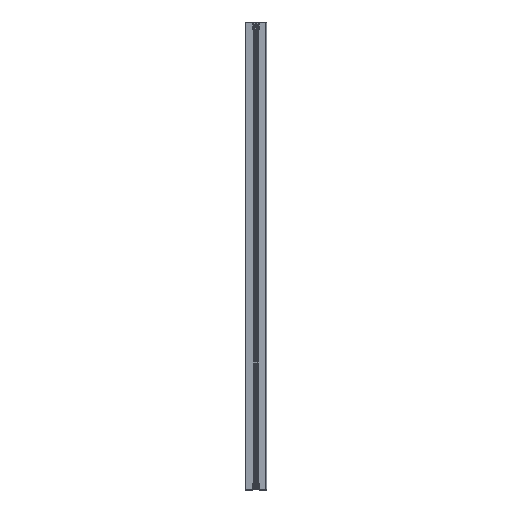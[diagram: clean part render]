
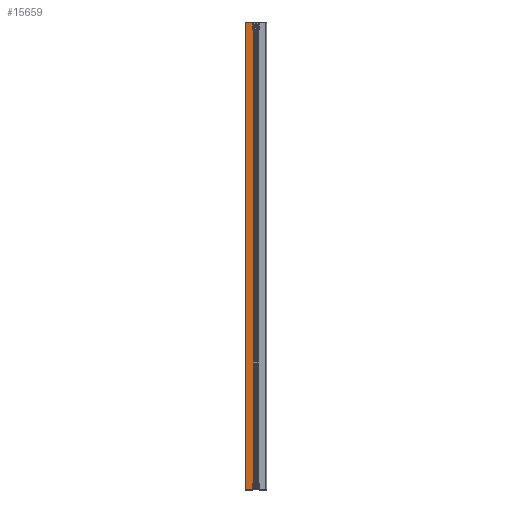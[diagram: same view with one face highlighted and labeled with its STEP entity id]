
A CAD part, left-side view. The second image highlights one B-rep face of the part: STEP entity #15659.
In plain terms, the highlighted planar face has unit normal (-1, 0, 0).
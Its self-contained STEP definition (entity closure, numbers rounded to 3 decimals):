
#38 = VERTEX_POINT ( 'NONE', #31273 ) ;
#57 = CARTESIAN_POINT ( 'NONE',  ( -16., 13.85, -1016.9 ) ) ;
#273 = VERTEX_POINT ( 'NONE', #57 ) ;
#827 = CARTESIAN_POINT ( 'NONE',  ( -16., 8.487, 1017. ) ) ;
#1369 = VERTEX_POINT ( 'NONE', #12019 ) ;
#1409 = DIRECTION ( 'NONE',  ( 0., -1., 0. ) ) ;
#1663 = EDGE_CURVE ( 'NONE', #1369, #17629, #6425, .T. ) ;
#2217 = CARTESIAN_POINT ( 'NONE',  ( -16., 46.5, -1016.9 ) ) ;
#2509 = ORIENTED_EDGE ( 'NONE', *, *, #16315, .F. ) ;
#2952 = VECTOR ( 'NONE', #3718, 1000. ) ;
#3391 = VERTEX_POINT ( 'NONE', #18782 ) ;
#3718 = DIRECTION ( 'NONE',  ( 0., 0., 1. ) ) ;
#3732 = LINE ( 'NONE', #18625, #15619 ) ;
#4264 = ORIENTED_EDGE ( 'NONE', *, *, #19120, .T. ) ;
#4620 = CARTESIAN_POINT ( 'NONE',  ( -16., 8.487, -1016.9 ) ) ;
#5380 = DIRECTION ( 'NONE',  ( 0., 0., 1. ) ) ;
#6071 = VECTOR ( 'NONE', #22957, 1000. ) ;
#6425 = LINE ( 'NONE', #16557, #15302 ) ;
#7306 = FACE_OUTER_BOUND ( 'NONE', #15967, .T. ) ;
#9922 = DIRECTION ( 'NONE',  ( 0., 1., 0. ) ) ;
#10946 = VECTOR ( 'NONE', #32166, 1000. ) ;
#11007 = DIRECTION ( 'NONE',  ( 0., -1., 0. ) ) ;
#11318 = VECTOR ( 'NONE', #1409, 1000. ) ;
#12019 = CARTESIAN_POINT ( 'NONE',  ( -16., 13.85, -987.3 ) ) ;
#12974 = LINE ( 'NONE', #827, #6071 ) ;
#13510 = VECTOR ( 'NONE', #23194, 1000. ) ;
#13867 = LINE ( 'NONE', #23860, #11318 ) ;
#14883 = ORIENTED_EDGE ( 'NONE', *, *, #19238, .F. ) ;
#15302 = VECTOR ( 'NONE', #11007, 1000. ) ;
#15619 = VECTOR ( 'NONE', #21572, 1000. ) ;
#15659 = ADVANCED_FACE ( 'NONE', ( #7306 ), #17919, .F. ) ;
#15967 = EDGE_LOOP ( 'NONE', ( #4264, #29728, #30396, #14883, #20544, #2509, #31978, #23372 ) ) ;
#15986 = CARTESIAN_POINT ( 'NONE',  ( -16., 46.5, 1017. ) ) ;
#15998 = CARTESIAN_POINT ( 'NONE',  ( -16., 13.85, -1017. ) ) ;
#16315 = EDGE_CURVE ( 'NONE', #22856, #3391, #12974, .T. ) ;
#16557 = CARTESIAN_POINT ( 'NONE',  ( -16., 13.85, -987.3 ) ) ;
#17629 = VERTEX_POINT ( 'NONE', #17672 ) ;
#17672 = CARTESIAN_POINT ( 'NONE',  ( -16., 8.776, -987.3 ) ) ;
#17919 = PLANE ( 'NONE',  #25921 ) ;
#18625 = CARTESIAN_POINT ( 'NONE',  ( -16., 13.85, 1017. ) ) ;
#18782 = CARTESIAN_POINT ( 'NONE',  ( -16., 13.85, 1017. ) ) ;
#18870 = VERTEX_POINT ( 'NONE', #27161 ) ;
#19120 = EDGE_CURVE ( 'NONE', #273, #1369, #21068, .T. ) ;
#19238 = EDGE_CURVE ( 'NONE', #38, #18870, #13867, .T. ) ;
#19734 = CARTESIAN_POINT ( 'NONE',  ( -16., 8.487, 1017. ) ) ;
#20265 = LINE ( 'NONE', #27323, #21989 ) ;
#20544 = ORIENTED_EDGE ( 'NONE', *, *, #21235, .F. ) ;
#21068 = LINE ( 'NONE', #15998, #2952 ) ;
#21235 = EDGE_CURVE ( 'NONE', #3391, #38, #3732, .T. ) ;
#21532 = VERTEX_POINT ( 'NONE', #2217 ) ;
#21572 = DIRECTION ( 'NONE',  ( 0., 0., -1. ) ) ;
#21989 = VECTOR ( 'NONE', #5380, 1000. ) ;
#22202 = EDGE_CURVE ( 'NONE', #21532, #273, #27065, .T. ) ;
#22342 = CARTESIAN_POINT ( 'NONE',  ( -16., 46.5, 1017. ) ) ;
#22677 = DIRECTION ( 'NONE',  ( 1., 0., 0. ) ) ;
#22856 = VERTEX_POINT ( 'NONE', #22342 ) ;
#22957 = DIRECTION ( 'NONE',  ( 0., -1., 0. ) ) ;
#23194 = DIRECTION ( 'NONE',  ( 0., 0., -1. ) ) ;
#23372 = ORIENTED_EDGE ( 'NONE', *, *, #22202, .T. ) ;
#23860 = CARTESIAN_POINT ( 'NONE',  ( -16., 13.85, 987.3 ) ) ;
#25474 = EDGE_CURVE ( 'NONE', #17629, #18870, #20265, .T. ) ;
#25921 = AXIS2_PLACEMENT_3D ( 'NONE', #19734, #22677, #9922 ) ;
#27065 = LINE ( 'NONE', #4620, #10946 ) ;
#27161 = CARTESIAN_POINT ( 'NONE',  ( -16., 8.776, 987.3 ) ) ;
#27323 = CARTESIAN_POINT ( 'NONE',  ( -16., 8.776, 1017. ) ) ;
#29728 = ORIENTED_EDGE ( 'NONE', *, *, #1663, .T. ) ;
#30396 = ORIENTED_EDGE ( 'NONE', *, *, #25474, .T. ) ;
#30610 = LINE ( 'NONE', #15986, #13510 ) ;
#31273 = CARTESIAN_POINT ( 'NONE',  ( -16., 13.85, 987.3 ) ) ;
#31457 = EDGE_CURVE ( 'NONE', #22856, #21532, #30610, .T. ) ;
#31978 = ORIENTED_EDGE ( 'NONE', *, *, #31457, .T. ) ;
#32166 = DIRECTION ( 'NONE',  ( 0., -1., 0. ) ) ;
